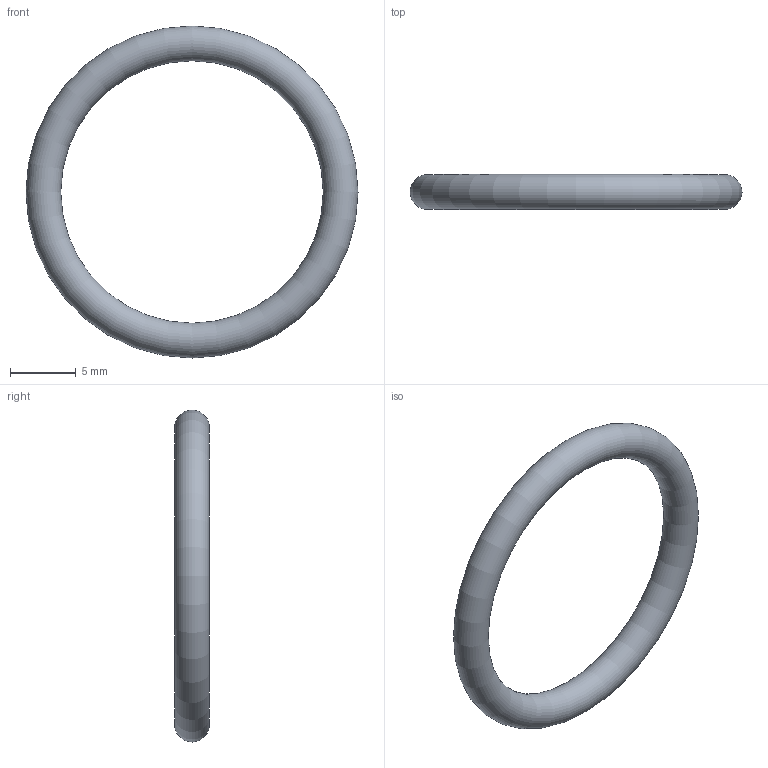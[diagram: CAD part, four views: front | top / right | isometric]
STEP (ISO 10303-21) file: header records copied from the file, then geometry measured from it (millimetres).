
FILE_DESCRIPTION( ( 'STEP AP203' ), '1' );
FILE_NAME( 'C:/Temp/Ganter_Step_05_03_2020/data/3_5/or638/O-Ring OR638-20.00-2.65-70.stp', '2020-03-12T13:44:28', ( 'License CC BY-ND 4.0' ), ( 'CADENAS' ), ' ', 'PARTsolutions', ' ' );
FILE_SCHEMA( ( 'CONFIG_CONTROL_DESIGN' ) );
Length unit declared in the file: millimetre
Products named in the file (1): _O-Ring OR638-20.00-2.65-70
Bounding box: 25.3 x 2.65 x 25.3 mm (x, y, z)
Volume: 392.5 mm3; surface area: 592.4 mm2
Topology: 1 solids, 1 shells, 1 faces, 2 edges, 1 vertices
Faces by surface type: torus 1
Entity records: 62 total; most frequent: CC_DESIGN_PERSON_AND_ORGANIZATION_ASSIGNMENT 5, PERSON_AND_ORGANIZATION_ROLE 4, DIRECTION 4, CARTESIAN_POINT 3, DATE_TIME_ROLE 2, CC_DESIGN_DATE_AND_TIME_ASSIGNMENT 2, AXIS2_PLACEMENT_3D 2, DIMENSIONAL_EXPONENTS 2
